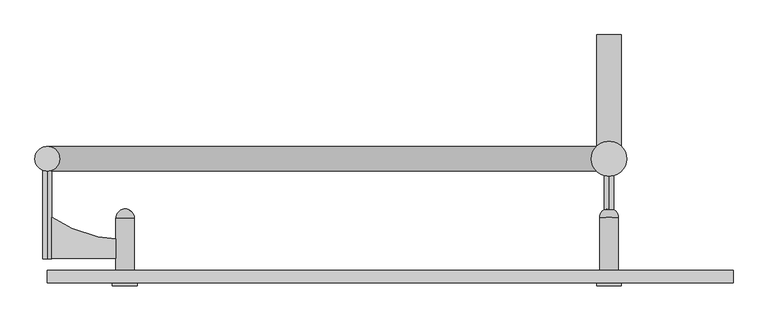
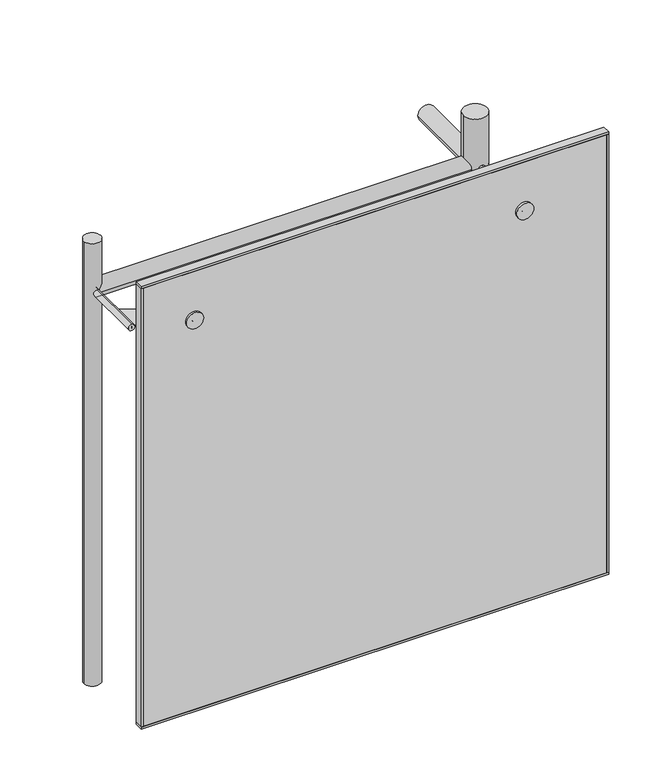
"""IFC4 building model written with IfcOpenShell, lengths in millimetres: plate geometry, FLATNING_TRYOUT_CORNER : FLATNING_TRYOUT_CORNER."""

from ifc_helpers import new_model, si_unit, point, frame, frame_2d, origin, origin_with_axes, place, context, project, spatial, polyline, circle_curve, ellipse_curve, trimmed, segment, composite_curve, outline, extrude, source, transform, mapped, element, save
from ifc_brep_helpers import plane_surface, cylinder_surface, revolved_surface, advanced_brep


def plate_2770a3c2(model_context):
    return source(origin(), model_context, "Body", "SolidModel", [
        advanced_brep(
        [(352.5, 0.0, 980.0), (357.5, 0.0, 980.0), (347.5, 0.0, 980.0), (367.5, 20.0, 980.0), (367.5, 105.0, 980.0), (337.5, 105.0, 980.0), (337.5, 20.0, 980.0), (357.5, 20.0, 980.0), (347.5, 20.0, 980.0), (352.5, 120.0, 980.0)],
        [
            (0, 1),
            (1, 2, circle_curve(frame((352.5, 0.0, 980.0), z_axis=(0.0, -1.0, 0.0), x_axis=(-1.0, 0.0, 0.0)), 5.0)),
            (2, 0),
            (2, 1, circle_curve(frame((352.5, 0.0, 980.0), z_axis=(0.0, -1.0, 0.0), x_axis=(-1.0, 0.0, 0.0)), 5.0)),
            (3, 4),
            (4, 5, circle_curve(frame((352.5, 105.0, 980.0), z_axis=(0.0, -1.0, 0.0), x_axis=(-1.0, 0.0, 0.0)), 15.0)),
            (5, 6),
            (6, 3, circle_curve(frame((352.5, 20.0, 980.0), z_axis=(0.0, 1.0, 0.0), x_axis=(-1.0, 0.0, 0.0)), 15.0)),
            (5, 4, circle_curve(frame((352.5, 105.0, 980.0), z_axis=(0.0, -1.0, 0.0), x_axis=(-1.0, 0.0, 0.0)), 15.0)),
            (3, 6, circle_curve(frame((352.5, 20.0, 980.0), z_axis=(0.0, 1.0, 0.0), x_axis=(-1.0, 0.0, 0.0)), 15.0)),
            (7, 3),
            (6, 8),
            (8, 7, circle_curve(frame((352.5, 20.0, 980.0), z_axis=(0.0, 1.0, 0.0), x_axis=(-1.0, 0.0, 0.0)), 5.0)),
            (7, 8, circle_curve(frame((352.5, 20.0, 980.0), z_axis=(0.0, 1.0, 0.0), x_axis=(-1.0, 0.0, 0.0)), 5.0)),
            (1, 7),
            (8, 2),
            (4, 9, circle_curve(frame((352.5, 105.0, 980.0), z_axis=(0.0, 0.0, 1.0), x_axis=(1.0, 0.0, 0.0)), 15.0)),
            (9, 5, circle_curve(frame((352.5, 105.0, 980.0), z_axis=(0.0, 0.0, 1.0), x_axis=(-1.0, 0.0, 0.0)), 15.0)),
        ],
        [
            plane_surface(frame((352.5, 0.0, 980.0), z_axis=(0.0, -1.0, 0.0), x_axis=(-1.0, 0.0, 0.0))),
            cylinder_surface(frame((352.5, -255.0, 980.0), z_axis=(0.0, -1.0, 0.0), x_axis=(-1.0, 0.0, 0.0)), 15.0),
            plane_surface(frame((352.5, 20.0, 980.0), z_axis=(0.0, -1.0, 0.0), x_axis=(-1.0, 0.0, 0.0))),
            cylinder_surface(frame((352.5, -255.0, 980.0), z_axis=(0.0, -1.0, 0.0), x_axis=(-1.0, 0.0, 0.0)), 5.0),
            revolved_surface(trimmed(ellipse_curve(frame((352.5, 105.0, 980.0), z_axis=(0.0, 0.0, 1.0), x_axis=(-1.0, 0.0, 0.0)), 15.0, 15.0), [point((352.5, 120.0, 980.0))], [point((337.5, 105.0, 980.0))], True, "CARTESIAN"), (352.5, -255.0, 980.0), (0.0, -1.0, 0.0)),
        ],
        [
            (0, [[1, 2, 3]]),
            (0, [[-3, 4, -1]]),
            (1, [[5, 6, 7, 8]]),
            (1, [[-7, 9, -5, 10]]),
            (2, [[11, -8, 12, 13]]),
            (2, [[-12, -10, -11, 14]]),
            (3, [[15, -13, 16, -2]]),
            (3, [[-16, -14, -15, -4]]),
            (4, [[17, 18, -6]]),
            (4, [[-18, -17, -9]]),
        ],
    ),
        extrude(outline(composite_curve([segment(polyline([(-427.363113, 38.8273073), (-552.3614553, 39.4710573), (-552.0009553, 109.470129)]), True, "CONTINUOUS"), segment(trimmed(circle_curve(frame_2d((-421.8263088, 297.2578864)), 228.4943772), [point((-552.0009553, 109.470129))], [point((-427.208613, 68.8269095))], True, "CARTESIAN"), True, "CONTINUOUS"), segment(polyline([(-427.208613, 68.8269095), (-427.363113, 38.8273073)]), True, "CONTINUOUS")], self_intersect=False)), frame((0.0, 0.0, 977.5), z_axis=(0.0, 0.0, 1.0), x_axis=(1.0, 0.0, 0.0)), (0.0, 0.0, 1.0), 5.0),
        advanced_brep(
        [(-427.569113, -1.1721622, 980.0), (-422.5691793, -1.1979122, 980.0), (-432.5690467, -1.1464122, 980.0), (-412.4663119, 18.7503226, 980.0), (-412.0285619, 103.7491953, 980.0), (-442.0281641, 103.9036953, 980.0), (-442.4659141, 18.9048226, 980.0), (-422.4661793, 18.8018226, 980.0), (-432.4660467, 18.8533226, 980.0), (-426.951113, 118.8262464, 980.0)],
        [
            (0, 1),
            (1, 2, circle_curve(frame((-427.569113, -1.1721622, 980.0), z_axis=(-0.0051500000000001, -0.9999867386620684, 0.0), x_axis=(-0.9999867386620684, 0.0051500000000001, 0.0)), 5.0)),
            (2, 0),
            (2, 1, circle_curve(frame((-427.569113, -1.1721622, 980.0), z_axis=(-0.0051500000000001, -0.9999867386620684, 0.0), x_axis=(-0.9999867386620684, 0.0051500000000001, 0.0)), 5.0)),
            (3, 4),
            (4, 5, circle_curve(frame((-427.028363, 103.8264453, 980.0), z_axis=(-0.0051500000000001, -0.9999867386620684, 0.0), x_axis=(-0.9999867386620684, 0.0051500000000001, 0.0)), 15.0)),
            (5, 6),
            (6, 3, circle_curve(frame((-427.466113, 18.8275726, 980.0), z_axis=(0.0051500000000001, 0.9999867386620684, 0.0), x_axis=(-0.9999867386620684, 0.0051500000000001, 0.0)), 15.0)),
            (5, 4, circle_curve(frame((-427.028363, 103.8264453, 980.0), z_axis=(-0.0051500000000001, -0.9999867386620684, 0.0), x_axis=(-0.9999867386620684, 0.0051500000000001, 0.0)), 15.0)),
            (3, 6, circle_curve(frame((-427.466113, 18.8275726, 980.0), z_axis=(0.0051500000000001, 0.9999867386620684, 0.0), x_axis=(-0.9999867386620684, 0.0051500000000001, 0.0)), 15.0)),
            (7, 3),
            (6, 8),
            (8, 7, circle_curve(frame((-427.466113, 18.8275726, 980.0), z_axis=(0.0051500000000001, 0.9999867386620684, 0.0), x_axis=(-0.9999867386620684, 0.0051500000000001, 0.0)), 5.0)),
            (7, 8, circle_curve(frame((-427.466113, 18.8275726, 980.0), z_axis=(0.0051500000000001, 0.9999867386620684, 0.0), x_axis=(-0.9999867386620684, 0.0051500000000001, 0.0)), 5.0)),
            (1, 7),
            (8, 2),
            (4, 9, circle_curve(frame((-427.028363, 103.8264453, 980.0), z_axis=(0.0, 0.0, 1.0), x_axis=(0.9999867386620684, -0.0051500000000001, 0.0)), 15.0)),
            (9, 5, circle_curve(frame((-427.028363, 103.8264453, 980.0), z_axis=(0.0, 0.0, 1.0), x_axis=(-0.9999867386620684, 0.0051500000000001, 0.0)), 15.0)),
        ],
        [
            plane_surface(frame((-427.569113, -1.1721622, 980.0), z_axis=(-0.0051500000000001, -0.9999867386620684, 0.0), x_axis=(-0.9999867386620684, 0.0051500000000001, 0.0))),
            cylinder_surface(frame((-428.882363, -256.1687806, 980.0), z_axis=(-0.0051500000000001, -0.9999867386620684, 0.0), x_axis=(-0.9999867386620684, 0.0051500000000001, 0.0)), 15.0),
            plane_surface(frame((-427.466113, 18.8275726, 980.0), z_axis=(-0.0051500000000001, -0.9999867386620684, 0.0), x_axis=(-0.9999867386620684, 0.0051500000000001, 0.0))),
            cylinder_surface(frame((-428.882363, -256.1687806, 980.0), z_axis=(-0.0051500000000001, -0.9999867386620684, 0.0), x_axis=(-0.9999867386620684, 0.0051500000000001, 0.0)), 5.0),
            revolved_surface(trimmed(ellipse_curve(frame((-427.028363, 103.8264453, 980.0), z_axis=(0.0, 0.0, 1.0), x_axis=(-0.9999867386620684, 0.0051500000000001, 0.0)), 15.0, 15.0), [point((-426.951113, 118.8262464, 980.0))], [point((-442.0281641, 103.9036953, 980.0))], True, "CARTESIAN"), (-428.882363, -256.1687806, 980.0), (-0.0051500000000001, -0.9999867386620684, 0.0)),
        ],
        [
            (0, [[1, 2, 3]]),
            (0, [[-3, 4, -1]]),
            (1, [[5, 6, 7, 8]]),
            (1, [[-7, 9, -5, 10]]),
            (2, [[11, -8, 12, 13]]),
            (2, [[-12, -10, -11, 14]]),
            (3, [[15, -13, 16, -2]]),
            (3, [[-16, -14, -15, -4]]),
            (4, [[17, 18, -6]]),
            (4, [[-18, -17, -9]]),
        ],
    ),
        extrude(outline(composite_curve([segment(trimmed(circle_curve(frame_2d((980.0, 352.5)), 20.0), [point((980.0, 372.5))], [point((980.0, 332.5))], False, "CARTESIAN"), True, "CONTINUOUS"), segment(trimmed(circle_curve(frame_2d((980.0, 352.5)), 20.0), [point((980.0, 332.5))], [point((980.0, 372.5))], False, "CARTESIAN"), True, "CONTINUOUS")], self_intersect=False)), frame((0.0, -5.0, 0.0), z_axis=(0.0, 1.0, 0.0), x_axis=(0.0, 0.0, 1.0)), (0.0, 0.0, 1.0), 5.0),
        extrude(outline(composite_curve([segment(trimmed(circle_curve(frame_2d((980.0, -427.5)), 20.0), [point((980.0, -407.5))], [point((980.0, -447.5))], False, "CARTESIAN"), True, "CONTINUOUS"), segment(trimmed(circle_curve(frame_2d((980.0, -427.5)), 20.0), [point((980.0, -447.5))], [point((980.0, -407.5))], False, "CARTESIAN"), True, "CONTINUOUS")], self_intersect=False)), frame((0.0, -5.0, 0.0), z_axis=(0.0, 1.0, 0.0), x_axis=(0.0, 0.0, 1.0)), (0.0, 0.0, 1.0), 5.0),
        advanced_brep(
        [(-552.5, 220.0, 980.0), (-552.5, 180.0, 980.0), (372.5, 180.0, 980.0), (332.5, 220.0, 980.0), (332.5, 400.0, 980.0), (372.5, 400.0, 980.0)],
        [
            (0, 1, circle_curve(frame((-552.5, 200.0, 980.0), z_axis=(-1.0, 0.0, 0.0), x_axis=(0.0, -1.0, 0.0)), 20.0)),
            (1, 0, circle_curve(frame((-552.5, 200.0, 980.0), z_axis=(-1.0, 0.0, 0.0), x_axis=(0.0, -1.0, 0.0)), 20.0)),
            (1, 2),
            (2, 3, ellipse_curve(frame((352.5, 200.0, 980.0), z_axis=(-0.7071067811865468, -0.7071067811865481, 0.0), x_axis=(-0.7071067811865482, 0.7071067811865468, 0.0)), 28.2842712, 20.0)),
            (3, 0),
            (3, 2, ellipse_curve(frame((352.5, 200.0, 980.0), z_axis=(-0.7071067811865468, -0.7071067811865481, 0.0), x_axis=(-0.7071067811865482, 0.7071067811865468, 0.0)), 28.2842712, 20.0)),
            (4, 5, circle_curve(frame((352.5, 400.0, 980.0), z_axis=(0.0, 1.0, 0.0), x_axis=(1.0, 0.0, 0.0)), 20.0)),
            (5, 4, circle_curve(frame((352.5, 400.0, 980.0), z_axis=(0.0, 1.0, 0.0), x_axis=(1.0, 0.0, 0.0)), 20.0)),
            (2, 5),
            (4, 3),
        ],
        [
            plane_surface(frame((-552.5, 200.0, 0.0), z_axis=(-1.0, 0.0, 0.0), x_axis=(0.0, 0.0, 1.0))),
            cylinder_surface(frame((-552.5, 200.0, 980.0), z_axis=(-1.0, 0.0, 0.0), x_axis=(0.0, -1.0, 0.0)), 20.0),
            plane_surface(frame((352.5, 400.0, 0.0), z_axis=(0.0, 1.0, 0.0), x_axis=(0.0, 0.0, 1.0))),
            cylinder_surface(frame((352.5, 200.0, 980.0), z_axis=(0.0, -1.0, 0.0), x_axis=(1.0, 0.0, 0.0)), 20.0),
        ],
        [
            (0, [[1, 2]]),
            (1, [[3, 4, 5, -2]]),
            (1, [[-5, 6, -3, -1]]),
            (2, [[7, 8]]),
            (3, [[9, -7, 10, -4]]),
            (3, [[-10, -8, -9, -6]]),
        ],
    ),
        extrude(outline(polyline([(552.5, 20.0), (552.5, 0.0), (-552.5, 0.0), (-552.5, 20.0), (552.5, 20.0)])), origin_with_axes(), (0.0, 0.0, 1.0), 5.0),
        extrude(outline(polyline([(552.5, 20.0), (552.5, 0.0), (-552.5, 0.0), (-552.5, 20.0), (552.5, 20.0)])), frame((0.0, 0.0, 1100.0), z_axis=(0.0, 0.0, 1.0), x_axis=(1.0, 0.0, 0.0)), (0.0, 0.0, 1.0), 5.0),
        extrude(outline(polyline([(547.5, -0.0781286), (547.5, 20.0), (552.5, 20.0), (552.5, -0.0781286), (547.5, -0.0781286)])), frame((0.0, 0.0, 5.0), z_axis=(0.0, 0.0, 1.0), x_axis=(1.0, 0.0, 0.0)), (0.0, 0.0, 1.0), 1095.0),
        extrude(outline(polyline([(-547.5, -0.5287596), (-552.5000001, -0.5287596), (-552.5000001, 20.0), (-547.5, 20.0), (-547.5, -0.5287596)])), frame((0.0, 0.0, 5.0), z_axis=(0.0, 0.0, 1.0), x_axis=(1.0, 0.0, 0.0)), (0.0, 0.0, 1.0), 1095.0),
        extrude(outline(polyline([(547.5, 20.0), (547.5, 0.0), (-547.5, 0.0), (-547.5, 20.0), (547.5, 20.0)])), frame((0.0, 0.0, 5.0), z_axis=(0.0, 0.0, 1.0), x_axis=(1.0, 0.0, 0.0)), (0.0, 0.0, 1.0), 1095.0),
        extrude(outline(composite_curve([segment(trimmed(circle_curve(frame_2d((980.0, 352.5)), 7.5), [point((972.5, 352.5))], [point((987.5, 352.5))], False, "CARTESIAN"), True, "CONTINUOUS"), segment(trimmed(circle_curve(frame_2d((980.0, 352.5)), 7.5), [point((987.5, 352.5))], [point((972.5, 352.5))], False, "CARTESIAN"), True, "CONTINUOUS")], self_intersect=False)), frame((0.0, 39.2242369, 0.0), z_axis=(0.0, 1.0, 0.0), x_axis=(0.0, 0.0, 1.0)), (0.0, 0.0, 1.0), 160.0),
        extrude(outline(composite_curve([segment(trimmed(circle_curve(frame_2d((980.0, -552.5)), 7.5), [point((972.5, -552.5))], [point((987.5, -552.5))], False, "CARTESIAN"), True, "CONTINUOUS"), segment(trimmed(circle_curve(frame_2d((980.0, -552.5)), 7.5), [point((987.5, -552.5))], [point((972.5, -552.5))], False, "CARTESIAN"), True, "CONTINUOUS")], self_intersect=False)), frame((0.0, 38.6528093, 0.0), z_axis=(0.0, 1.0, 0.0), x_axis=(0.0, 0.0, 1.0)), (0.0, 0.0, 1.0), 160.0),
        extrude(outline(composite_curve([segment(trimmed(circle_curve(frame_2d((352.5, 200.0)), 28.3), [point((324.2, 200.0))], [point((380.8, 200.0))], False, "CARTESIAN"), True, "CONTINUOUS"), segment(trimmed(circle_curve(frame_2d((352.5, 200.0)), 28.3), [point((380.8, 200.0))], [point((324.2, 200.0))], False, "CARTESIAN"), True, "CONTINUOUS")], self_intersect=False)), origin_with_axes(), (0.0, 0.0, 1.0), 1105.0),
        extrude(outline(composite_curve([segment(trimmed(circle_curve(frame_2d((-552.5, 200.0)), 20.0), [point((-572.5, 200.0))], [point((-532.5, 200.0))], False, "CARTESIAN"), True, "CONTINUOUS"), segment(trimmed(circle_curve(frame_2d((-552.5, 200.0)), 20.0), [point((-532.5, 200.0))], [point((-572.5, 200.0))], False, "CARTESIAN"), True, "CONTINUOUS")], self_intersect=False)), origin_with_axes(), (0.0, 0.0, 1.0), 1105.0),
    ])


if __name__ == "__main__":
    model = new_model("IFC4")
    model_context = context("Model", 3, world=origin())
    ifc_project = project(units=[si_unit("LENGTHUNIT", "METRE", prefix="MILLI")], contexts=[model_context])
    site = spatial("IfcSite", under=ifc_project)
    building = spatial("IfcBuilding", under=site)
    placement = place(None, origin())
    plate_shape = plate_2770a3c2(model_context)
    element("IfcPlate", 1, ObjectType="FLATNING_TRYOUT_CORNER : FLATNING_TRYOUT_CORNER", at=placement, inside=building, context=model_context, shape_type="MappedRepresentation", body=[
        mapped(plate_shape, transform((0.0, 0.0, 0.0), x_axis=(1.0, 0.0, 0.0), y_axis=(0.0, 1.0, 0.0), z_axis=(0.0, 0.0, 1.0))),
    ])
    save(model, "model.ifc")
